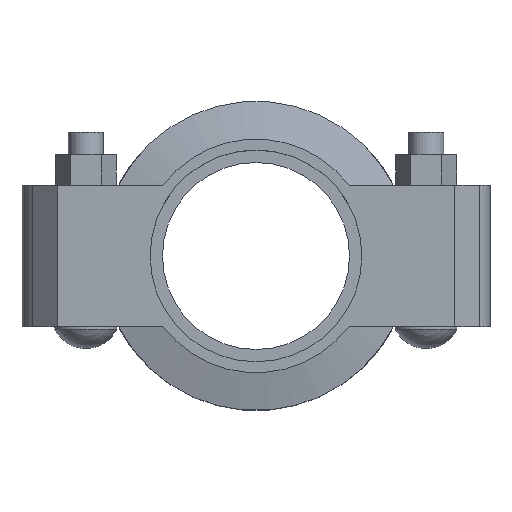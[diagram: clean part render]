
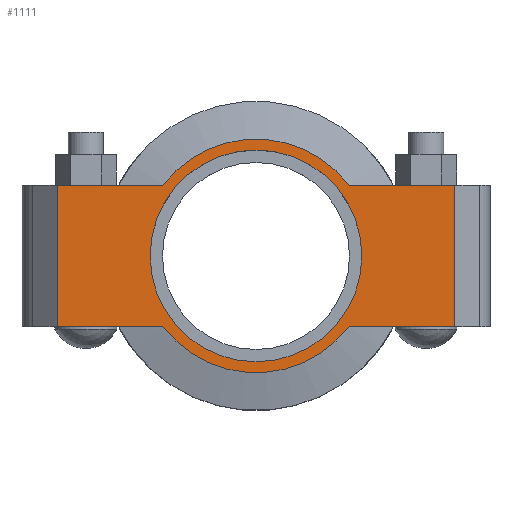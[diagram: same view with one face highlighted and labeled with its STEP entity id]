
A CAD part, top view. The second image highlights one B-rep face of the part: STEP entity #1111.
In plain terms, the highlighted planar face has unit normal (0, 0, 1).
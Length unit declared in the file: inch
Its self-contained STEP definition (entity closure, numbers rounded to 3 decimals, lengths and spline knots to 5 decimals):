
#75=FACE_BOUND('',#226,.T.);
#105=PLANE('',#1226);
#153=FACE_OUTER_BOUND('',#225,.T.);
#225=EDGE_LOOP('',(#888,#889,#890,#891,#892,#893,#894,#895));
#226=EDGE_LOOP('',(#896));
#298=LINE('',#1752,#385);
#313=LINE('',#1811,#400);
#321=LINE('',#1841,#408);
#323=LINE('',#1844,#410);
#324=LINE('',#1849,#411);
#325=LINE('',#1850,#412);
#385=VECTOR('',#1433,0.3937);
#400=VECTOR('',#1468,0.3937);
#408=VECTOR('',#1488,0.3937);
#410=VECTOR('',#1492,0.3937);
#411=VECTOR('',#1497,0.3937);
#412=VECTOR('',#1498,0.3937);
#437=CIRCLE('',#1183,1.5);
#453=CIRCLE('',#1227,1.655);
#454=CIRCLE('',#1228,1.655);
#480=VERTEX_POINT('',#1644);
#515=VERTEX_POINT('',#1749);
#516=VERTEX_POINT('',#1751);
#537=VERTEX_POINT('',#1806);
#538=VERTEX_POINT('',#1810);
#547=VERTEX_POINT('',#1836);
#548=VERTEX_POINT('',#1840);
#549=VERTEX_POINT('',#1846);
#550=VERTEX_POINT('',#1848);
#581=EDGE_CURVE('',#480,#480,#437,.T.);
#632=EDGE_CURVE('',#516,#515,#298,.T.);
#657=EDGE_CURVE('',#538,#537,#313,.T.);
#670=EDGE_CURVE('',#548,#547,#321,.T.);
#672=EDGE_CURVE('',#548,#515,#323,.T.);
#673=EDGE_CURVE('',#547,#549,#453,.T.);
#674=EDGE_CURVE('',#549,#550,#324,.T.);
#675=EDGE_CURVE('',#538,#550,#325,.T.);
#676=EDGE_CURVE('',#537,#516,#454,.T.);
#888=ORIENTED_EDGE('',*,*,#672,.F.);
#889=ORIENTED_EDGE('',*,*,#670,.T.);
#890=ORIENTED_EDGE('',*,*,#673,.T.);
#891=ORIENTED_EDGE('',*,*,#674,.T.);
#892=ORIENTED_EDGE('',*,*,#675,.F.);
#893=ORIENTED_EDGE('',*,*,#657,.T.);
#894=ORIENTED_EDGE('',*,*,#676,.T.);
#895=ORIENTED_EDGE('',*,*,#632,.T.);
#896=ORIENTED_EDGE('',*,*,#581,.T.);
#1111=ADVANCED_FACE('',(#153,#75),#105,.T.);
#1183=AXIS2_PLACEMENT_3D('',#1646,#1337,#1338);
#1226=AXIS2_PLACEMENT_3D('',#1845,#1493,#1494);
#1227=AXIS2_PLACEMENT_3D('',#1847,#1495,#1496);
#1228=AXIS2_PLACEMENT_3D('',#1851,#1499,#1500);
#1337=DIRECTION('center_axis',(0.,0.,-1.));
#1338=DIRECTION('ref_axis',(1.,0.,0.));
#1433=DIRECTION('',(1.,0.,0.));
#1468=DIRECTION('',(1.,0.,0.));
#1488=DIRECTION('',(-1.,0.,0.));
#1492=DIRECTION('',(0.,-1.,0.));
#1493=DIRECTION('center_axis',(0.,0.,1.));
#1494=DIRECTION('ref_axis',(-1.,0.,0.));
#1495=DIRECTION('center_axis',(0.,0.,1.));
#1496=DIRECTION('ref_axis',(1.,0.,0.));
#1497=DIRECTION('',(-1.,0.,0.));
#1498=DIRECTION('',(0.,1.,0.));
#1499=DIRECTION('center_axis',(0.,0.,1.));
#1500=DIRECTION('ref_axis',(1.,0.,0.));
#1644=CARTESIAN_POINT('',(-1.5,0.,0.94));
#1646=CARTESIAN_POINT('Origin',(0.,0.,0.94));
#1749=CARTESIAN_POINT('',(2.815,-1.,0.94));
#1751=CARTESIAN_POINT('',(1.31872,-1.,0.94));
#1752=CARTESIAN_POINT('',(-3.315,-1.,0.94));
#1806=CARTESIAN_POINT('',(-1.31872,-1.,0.94));
#1810=CARTESIAN_POINT('',(-2.815,-1.,0.94));
#1811=CARTESIAN_POINT('',(-3.315,-1.,0.94));
#1836=CARTESIAN_POINT('',(1.31872,1.,0.94));
#1840=CARTESIAN_POINT('',(2.815,1.,0.94));
#1841=CARTESIAN_POINT('',(3.315,1.,0.94));
#1844=CARTESIAN_POINT('',(2.815,-0.5,0.94));
#1845=CARTESIAN_POINT('Origin',(0.,0.,
0.94));
#1846=CARTESIAN_POINT('',(-1.31872,1.,0.94));
#1847=CARTESIAN_POINT('Origin',(0.,0.,0.94));
#1848=CARTESIAN_POINT('',(-2.815,1.,0.94));
#1849=CARTESIAN_POINT('',(3.315,1.,0.94));
#1850=CARTESIAN_POINT('',(-2.815,0.5,0.94));
#1851=CARTESIAN_POINT('Origin',(0.,0.,0.94));
